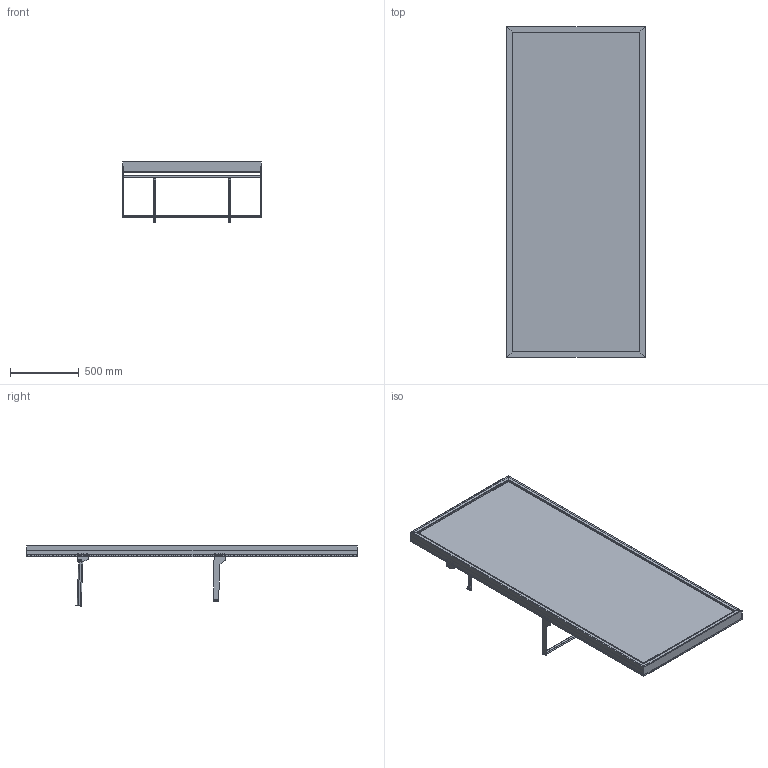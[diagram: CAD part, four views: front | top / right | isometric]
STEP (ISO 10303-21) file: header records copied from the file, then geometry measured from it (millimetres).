
FILE_DESCRIPTION (( 'STEP AP214' ), '1' );
FILE_NAME ('Slotted UpBright? Golf Pro Shop Apparel Wall (Config 2).STEP', '2026-03-30T16:58:40', ( '' ), ( '' ), 'SwSTEP 2.0', 'SolidWorks 2025', '' );
FILE_SCHEMA (( 'AUTOMOTIVE_DESIGN' ));
Length unit declared in the file: millimetre
Products named in the file (12): 0001-31-SA26 - 1005W Rear support Bar; 0001-31-SA27 - Forward Facing Arm; 0001-31-GA10 - 1005W Slotted upbright; 0001-31-103; 0001-31-SA25 - 1005W Side Facing D Rail; 0001-31-130; Slotted UpBright® Golf Pro Shop Apparel Wall (Config 2); 0001-31-112; 0001-31-104; 0001-31-100; 0001-31-110; 0001-31-131
Assembly tree (14 placements, depth 3):
  Slotted UpBright® Golf Pro Shop Apparel Wall (Config 2)
    0001-31-GA10 - 1005W Slotted upbright
    0001-31-SA27 - Forward Facing Arm  x2
      0001-31-104
      0001-31-112
      0001-31-110
    0001-31-SA26 - 1005W Rear support Bar
      0001-31-103  x2
      0001-31-131
    0001-31-SA25 - 1005W Side Facing D Rail
      0001-31-100  x2
      0001-31-130
Bounding box: 1005.74 x 2400 x 436.21 mm (x, y, z)
Volume: 8369388.6 mm3; surface area: 12399612.4 mm2
Topology: 18 solids, 18 shells, 852 faces, 2892 edges, 1928 vertices
Faces by surface type: plane 724, cylinder 128
Entity records: 28550 total; most frequent: CARTESIAN_POINT 5412, ORIENTED_EDGE 5202, DIRECTION 4109, EDGE_CURVE 2601, VECTOR 2415, LINE 2415, VERTEX_POINT 1734, EDGE_LOOP 917
